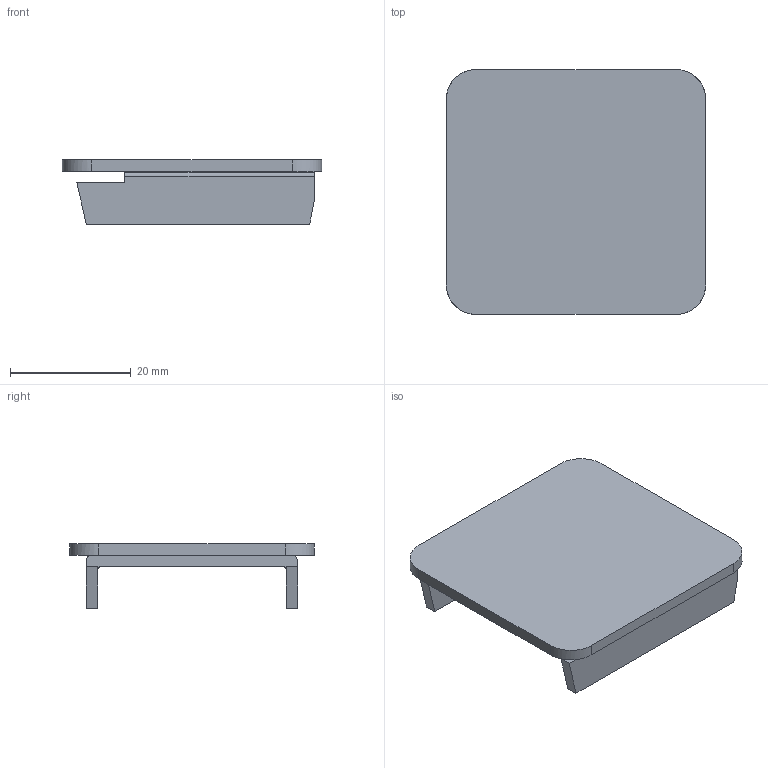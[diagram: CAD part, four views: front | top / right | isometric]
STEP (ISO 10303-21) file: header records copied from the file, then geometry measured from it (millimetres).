
FILE_DESCRIPTION(('TurboCAD Mac Pro'),'Build 980');
FILE_NAME('P2280W.stp',' ',(''),(''),'ACIS Interop','IMSI','TurboCAD Mac Pro BY IMSI, INCORPORATED');
FILE_SCHEMA(('automotive_design'));
Length unit declared in the file: inch
Products named in the file (1): 1
Bounding box: 42.86 x 40.48 x 10.64 mm (x, y, z)
Volume: 6340.8 mm3; surface area: 5210.3 mm2
Topology: 1 solids, 1 shells, 33 faces, 90 edges, 60 vertices
Faces by surface type: plane 21, cylinder 8, bspline 4
Entity records: 1352 total; most frequent: CARTESIAN_POINT 236, ORIENTED_EDGE 180, DIRECTION 158, EDGE_CURVE 90, LINE 66, VECTOR 66, VERTEX_POINT 60, AXIS2_PLACEMENT_3D 46
